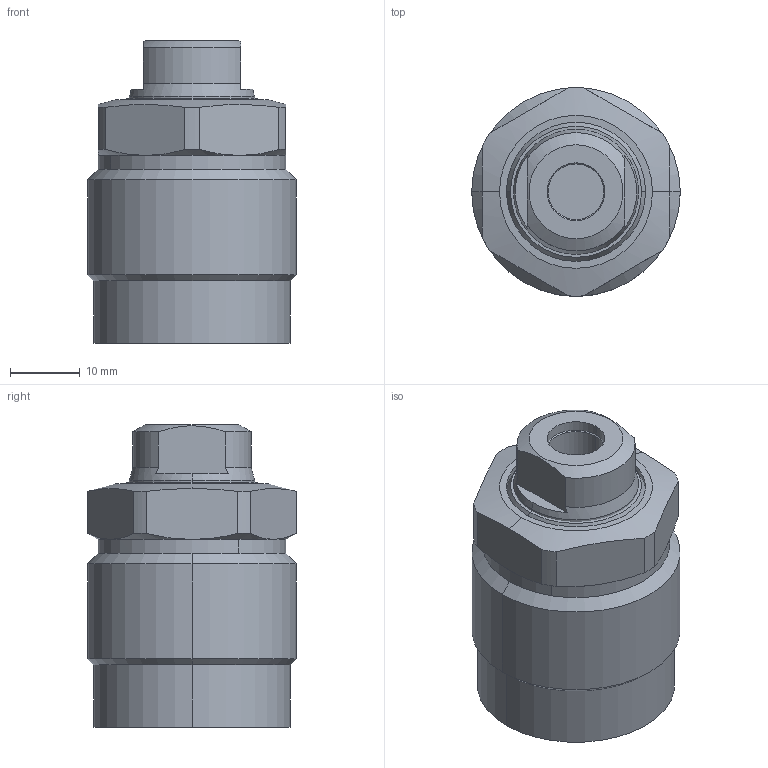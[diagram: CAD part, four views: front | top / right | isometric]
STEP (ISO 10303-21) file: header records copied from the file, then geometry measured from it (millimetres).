
FILE_DESCRIPTION((' '),'2;1');
FILE_NAME( 'TGP30-AS.x_t.stp', '2025-02-10T16:03:53', (' '), ('--- Datakit www.datakit.com---'), ' Datakit CrossCadWare V2024.1 Dec 21 2023', 'Mastercam 2025', ' ');
FILE_SCHEMA(('AUTOMOTIVE_DESIGN { 1 0 10303 214 1 1 1 1 }'));
Length unit declared in the file: millimetre
Products named in the file (1): TGP30-AS
Bounding box: 30 x 30 x 43.5 mm (x, y, z)
Volume: 25625.8 mm3; surface area: 6555.5 mm2
Topology: 2 solids, 2 shells, 82 faces, 197 edges, 126 vertices
Faces by surface type: cylinder 34, plane 22, cone 22, torus 4
Entity records: 2546 total; most frequent: CARTESIAN_POINT 580, DIRECTION 434, ORIENTED_EDGE 390, EDGE_CURVE 195, AXIS2_PLACEMENT_3D 184, VERTEX_POINT 126, CIRCLE 101, EDGE_LOOP 91
